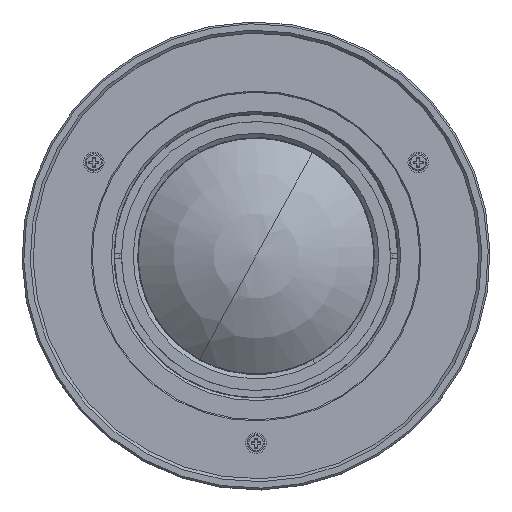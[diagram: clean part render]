
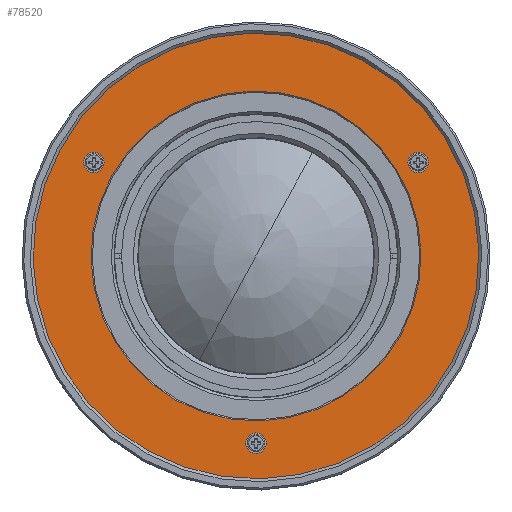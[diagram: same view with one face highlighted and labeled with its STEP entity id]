
A CAD part, top view. The second image highlights one B-rep face of the part: STEP entity #78520.
In plain terms, the highlighted planar face has unit normal (0, 0, 1).
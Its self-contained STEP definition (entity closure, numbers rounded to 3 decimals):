
#78400=CARTESIAN_POINT('Vertex',(-13.52,-24.748,110.8)) ;
#78407=CARTESIAN_POINT('Vertex',(13.52,24.748,110.8)) ;
#78410=CARTESIAN_POINT('Axis2P3D Location',(0.,0.,110.8)) ;
#78427=CARTESIAN_POINT('Axis2P3D Location',(0.,0.,110.8)) ;
#78439=CARTESIAN_POINT('Axis2P3D Location',(0.,28.,110.8)) ;
#78444=CARTESIAN_POINT('Axis2P3D Location',(0.,0.,110.8)) ;
#78448=CARTESIAN_POINT('Vertex',(18.458,33.787,110.8)) ;
#78450=CARTESIAN_POINT('Vertex',(-18.458,-33.787,110.8)) ;
#78453=CARTESIAN_POINT('Axis2P3D Location',(0.,0.,110.8)) ;
#78466=CARTESIAN_POINT('Axis2P3D Location',(0.,-32.,110.8)) ;
#78470=CARTESIAN_POINT('Vertex',(-1.75,-32.,110.8)) ;
#78472=CARTESIAN_POINT('Vertex',(1.75,-32.,110.8)) ;
#78475=CARTESIAN_POINT('Axis2P3D Location',(0.,-32.,110.8)) ;
#78484=CARTESIAN_POINT('Axis2P3D Location',(27.713,16.,110.8)) ;
#78488=CARTESIAN_POINT('Vertex',(28.588,14.484,110.8)) ;
#78490=CARTESIAN_POINT('Vertex',(26.838,17.516,110.8)) ;
#78493=CARTESIAN_POINT('Axis2P3D Location',(27.713,16.,110.8)) ;
#78502=CARTESIAN_POINT('Axis2P3D Location',(-27.713,16.,110.8)) ;
#78506=CARTESIAN_POINT('Vertex',(-26.838,17.516,110.8)) ;
#78508=CARTESIAN_POINT('Vertex',(-28.588,14.484,110.8)) ;
#78511=CARTESIAN_POINT('Axis2P3D Location',(-27.713,16.,110.8)) ;
#78411=DIRECTION('Axis2P3D Direction',(0.,0.,-1.)) ;
#78428=DIRECTION('Axis2P3D Direction',(0.,0.,-1.)) ;
#78440=DIRECTION('Axis2P3D Direction',(0.,0.,-1.)) ;
#78441=DIRECTION('Axis2P3D XDirection',(1.,0.,0.)) ;
#78445=DIRECTION('Axis2P3D Direction',(0.,0.,-1.)) ;
#78454=DIRECTION('Axis2P3D Direction',(0.,0.,-1.)) ;
#78467=DIRECTION('Axis2P3D Direction',(0.,0.,-1.)) ;
#78476=DIRECTION('Axis2P3D Direction',(0.,0.,-1.)) ;
#78485=DIRECTION('Axis2P3D Direction',(0.,0.,-1.)) ;
#78494=DIRECTION('Axis2P3D Direction',(0.,0.,-1.)) ;
#78503=DIRECTION('Axis2P3D Direction',(0.,0.,-1.)) ;
#78512=DIRECTION('Axis2P3D Direction',(0.,0.,-1.)) ;
#78412=AXIS2_PLACEMENT_3D('Circle Axis2P3D',#78410,#78411,$) ;
#78429=AXIS2_PLACEMENT_3D('Circle Axis2P3D',#78427,#78428,$) ;
#78442=AXIS2_PLACEMENT_3D('Plane Axis2P3D',#78439,#78440,#78441) ;
#78446=AXIS2_PLACEMENT_3D('Circle Axis2P3D',#78444,#78445,$) ;
#78455=AXIS2_PLACEMENT_3D('Circle Axis2P3D',#78453,#78454,$) ;
#78468=AXIS2_PLACEMENT_3D('Circle Axis2P3D',#78466,#78467,$) ;
#78477=AXIS2_PLACEMENT_3D('Circle Axis2P3D',#78475,#78476,$) ;
#78486=AXIS2_PLACEMENT_3D('Circle Axis2P3D',#78484,#78485,$) ;
#78495=AXIS2_PLACEMENT_3D('Circle Axis2P3D',#78493,#78494,$) ;
#78504=AXIS2_PLACEMENT_3D('Circle Axis2P3D',#78502,#78503,$) ;
#78513=AXIS2_PLACEMENT_3D('Circle Axis2P3D',#78511,#78512,$) ;
#78459=ORIENTED_EDGE('',*,*,#78452,.F.) ;
#78460=ORIENTED_EDGE('',*,*,#78457,.F.) ;
#78463=ORIENTED_EDGE('',*,*,#78414,.T.) ;
#78464=ORIENTED_EDGE('',*,*,#78431,.T.) ;
#78481=ORIENTED_EDGE('',*,*,#78474,.T.) ;
#78482=ORIENTED_EDGE('',*,*,#78479,.T.) ;
#78499=ORIENTED_EDGE('',*,*,#78492,.T.) ;
#78500=ORIENTED_EDGE('',*,*,#78497,.T.) ;
#78517=ORIENTED_EDGE('',*,*,#78510,.T.) ;
#78518=ORIENTED_EDGE('',*,*,#78515,.T.) ;
#78465=FACE_BOUND('',#78462,.T.) ;
#78483=FACE_BOUND('',#78480,.T.) ;
#78501=FACE_BOUND('',#78498,.T.) ;
#78519=FACE_BOUND('',#78516,.T.) ;
#78520=ADVANCED_FACE('\X2\FF8AFF9FFF70FF82\X0\ \X2\FF8EFF9EFF83FF9EFF68FF70\X0\',(#78461,#78465,#78483,#78501,#78519),#78443,.F.) ;
#78413=CIRCLE('generated circle',#78412,28.2) ;
#78430=CIRCLE('generated circle',#78429,28.2) ;
#78447=CIRCLE('generated circle',#78446,38.5) ;
#78456=CIRCLE('generated circle',#78455,38.5) ;
#78469=CIRCLE('generated circle',#78468,1.75) ;
#78478=CIRCLE('generated circle',#78477,1.75) ;
#78487=CIRCLE('generated circle',#78486,1.75) ;
#78496=CIRCLE('generated circle',#78495,1.75) ;
#78505=CIRCLE('generated circle',#78504,1.75) ;
#78514=CIRCLE('generated circle',#78513,1.75) ;
#78414=EDGE_CURVE('',#78401,#78408,#78413,.T.) ;
#78431=EDGE_CURVE('',#78408,#78401,#78430,.T.) ;
#78452=EDGE_CURVE('',#78449,#78451,#78447,.T.) ;
#78457=EDGE_CURVE('',#78451,#78449,#78456,.T.) ;
#78474=EDGE_CURVE('',#78471,#78473,#78469,.T.) ;
#78479=EDGE_CURVE('',#78473,#78471,#78478,.T.) ;
#78492=EDGE_CURVE('',#78489,#78491,#78487,.T.) ;
#78497=EDGE_CURVE('',#78491,#78489,#78496,.T.) ;
#78510=EDGE_CURVE('',#78507,#78509,#78505,.T.) ;
#78515=EDGE_CURVE('',#78509,#78507,#78514,.T.) ;
#78458=EDGE_LOOP('',(#78459,#78460)) ;
#78462=EDGE_LOOP('',(#78463,#78464)) ;
#78480=EDGE_LOOP('',(#78481,#78482)) ;
#78498=EDGE_LOOP('',(#78499,#78500)) ;
#78516=EDGE_LOOP('',(#78517,#78518)) ;
#78461=FACE_OUTER_BOUND('',#78458,.T.) ;
#78443=PLANE('Plane',#78442) ;
#78401=VERTEX_POINT('',#78400) ;
#78408=VERTEX_POINT('',#78407) ;
#78449=VERTEX_POINT('',#78448) ;
#78451=VERTEX_POINT('',#78450) ;
#78471=VERTEX_POINT('',#78470) ;
#78473=VERTEX_POINT('',#78472) ;
#78489=VERTEX_POINT('',#78488) ;
#78491=VERTEX_POINT('',#78490) ;
#78507=VERTEX_POINT('',#78506) ;
#78509=VERTEX_POINT('',#78508) ;
